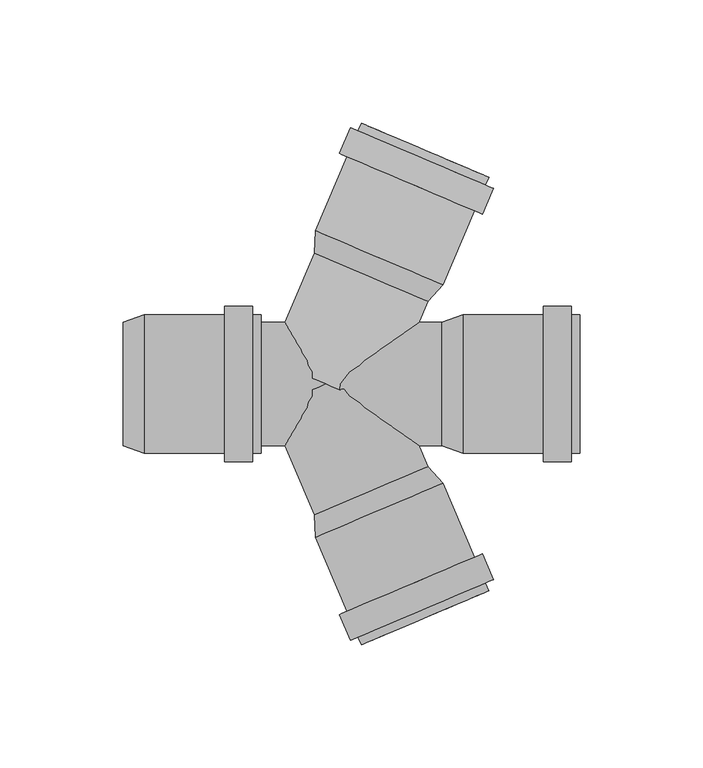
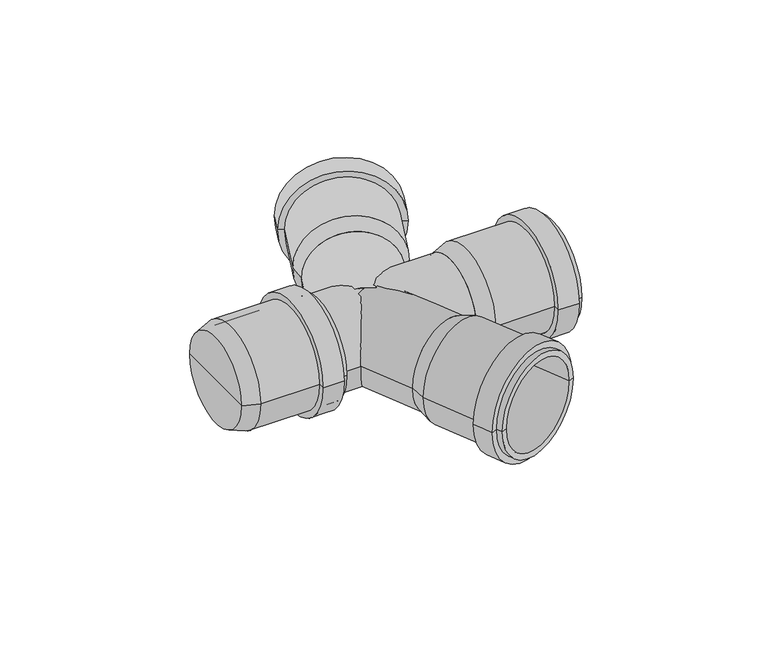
"""IFC4 building model written with IfcOpenShell, lengths in millimetres: pipe fitting geometry, pf_HTDA : pf_HTDA."""

from ifc_helpers import new_model, si_unit, point, frame, origin, origin_2d, place, context, project, spatial, polyline, circle_curve, trimmed, segment, composite_curve, outline, extrude, source, transform, mapped, element, save
from ifc_brep_helpers import plane_surface, cylinder_surface, revolved_surface, advanced_brep


def pipe_fitting_80fb3df5(model_context):
    return source(origin(), model_context, "Body", "SolidModel", [
        advanced_brep(
        [(41.4160575, 33.5875004, 0.0), (-4.6091852, 53.1240568, 0.0), (-4.1415356, 62.1596146, 0.0), (47.5908371, 40.2005251, 0.0), (18.4034362, 43.3557786, 0.0), (66.1505657, 83.9245057, 0.0), (14.418193, 105.8835951, 0.0), (17.271758, 104.6723286, 0.0), (63.2970007, 85.1357722, 0.0), (64.8220799, 80.7947892, 0.0), (13.0897071, 102.7538786, 0.0), (67.9517964, 79.4663033, 0.0), (9.9599906, 104.0823644, 0.0), (63.4974615, 68.972548, 0.0), (5.5056558, 93.5886091, 0.0), (60.367745, 70.3010338, 0.0), (8.6353723, 92.2601233, 0.0), (44.7372721, 41.4117916, 0.0), (-1.2879706, 60.9483481, 0.0), (21.7246507, 51.1800699, 0.0)],
        [
            (0, 1, circle_curve(frame((18.4034362, 43.3557786, 0.0), z_axis=(0.39073112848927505, 0.9205048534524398, 0.0), x_axis=(-0.9205048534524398, 0.39073112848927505, 0.0)), 25.0)),
            (1, 2),
            (2, 3, circle_curve(frame((21.7246507, 51.1800699, 0.0), z_axis=(-0.39073112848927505, -0.9205048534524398, 0.0), x_axis=(-0.9205048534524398, 0.39073112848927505, 0.0)), 28.1)),
            (3, 0),
            (1, 0, circle_curve(frame((18.4034362, 43.3557786, 0.0), z_axis=(0.39073112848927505, 0.9205048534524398, 0.0), x_axis=(-0.9205048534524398, 0.39073112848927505, 0.0)), 25.0)),
            (3, 2, circle_curve(frame((21.7246507, 51.1800699, 0.0), z_axis=(-0.39073112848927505, -0.9205048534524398, 0.0), x_axis=(-0.9205048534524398, 0.39073112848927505, 0.0)), 28.1)),
            (4, 1),
            (0, 4),
            (5, 6, circle_curve(frame((40.2843793, 94.9040504, 0.0), z_axis=(0.39073112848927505, 0.9205048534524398, 0.0), x_axis=(-0.9205048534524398, 0.39073112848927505, 0.0)), 28.1)),
            (6, 7),
            (7, 8, circle_curve(frame((40.2843793, 94.9040504, 0.0), z_axis=(-0.39073112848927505, -0.9205048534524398, 0.0), x_axis=(-0.9205048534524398, 0.39073112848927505, 0.0)), 25.0)),
            (8, 5),
            (6, 5, circle_curve(frame((40.2843793, 94.9040504, 0.0), z_axis=(0.39073112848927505, 0.9205048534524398, 0.0), x_axis=(-0.9205048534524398, 0.39073112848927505, 0.0)), 28.1)),
            (8, 7, circle_curve(frame((40.2843793, 94.9040504, 0.0), z_axis=(-0.39073112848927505, -0.9205048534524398, 0.0), x_axis=(-0.9205048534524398, 0.39073112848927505, 0.0)), 25.0)),
            (9, 10, circle_curve(frame((38.9558935, 91.7743339, 0.0), z_axis=(0.39073112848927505, 0.9205048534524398, 0.0), x_axis=(-0.9205048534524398, 0.39073112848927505, 0.0)), 28.1)),
            (10, 6),
            (5, 9),
            (10, 9, circle_curve(frame((38.9558935, 91.7743339, 0.0), z_axis=(0.39073112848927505, 0.9205048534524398, 0.0), x_axis=(-0.9205048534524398, 0.39073112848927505, 0.0)), 28.1)),
            (11, 12, circle_curve(frame((38.9558935, 91.7743339, 0.0), z_axis=(0.39073112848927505, 0.9205048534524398, 0.0), x_axis=(-0.9205048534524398, 0.39073112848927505, 0.0)), 31.5)),
            (12, 10),
            (9, 11),
            (12, 11, circle_curve(frame((38.9558935, 91.7743339, 0.0), z_axis=(0.39073112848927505, 0.9205048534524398, 0.0), x_axis=(-0.9205048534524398, 0.39073112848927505, 0.0)), 31.5)),
            (13, 14, circle_curve(frame((34.5015586, 81.2805786, 0.0), z_axis=(0.39073112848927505, 0.9205048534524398, 0.0), x_axis=(-0.9205048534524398, 0.39073112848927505, 0.0)), 31.5)),
            (14, 12),
            (11, 13),
            (14, 13, circle_curve(frame((34.5015586, 81.2805786, 0.0), z_axis=(0.39073112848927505, 0.9205048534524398, 0.0), x_axis=(-0.9205048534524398, 0.39073112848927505, 0.0)), 31.5)),
            (15, 16, circle_curve(frame((34.5015586, 81.2805786, 0.0), z_axis=(0.39073112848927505, 0.9205048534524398, 0.0), x_axis=(-0.9205048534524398, 0.39073112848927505, 0.0)), 28.1)),
            (16, 14),
            (13, 15),
            (16, 15, circle_curve(frame((34.5015586, 81.2805786, 0.0), z_axis=(0.39073112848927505, 0.9205048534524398, 0.0), x_axis=(-0.9205048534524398, 0.39073112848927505, 0.0)), 28.1)),
            (2, 16),
            (15, 3),
            (17, 18, circle_curve(frame((21.7246507, 51.1800699, 0.0), z_axis=(0.39073112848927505, 0.9205048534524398, 0.0), x_axis=(-0.9205048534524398, 0.39073112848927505, 0.0)), 25.0)),
            (18, 19),
            (19, 17),
            (18, 17, circle_curve(frame((21.7246507, 51.1800699, 0.0), z_axis=(0.39073112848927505, 0.9205048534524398, 0.0), x_axis=(-0.9205048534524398, 0.39073112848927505, 0.0)), 25.0)),
            (7, 18),
            (17, 8),
        ],
        [
            revolved_surface(polyline([(-4.1415356, 62.1596146, 0.0), (-4.6091852, 53.1240568, 0.0)]), (18.4034362, 43.3557786, 0.0), (-0.39073112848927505, -0.9205048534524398, 0.0)),
            plane_surface(frame((18.4034362, 43.3557786, 0.0), z_axis=(-0.39073112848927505, -0.9205048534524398, 0.0), x_axis=(-0.9205048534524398, 0.39073112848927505, 0.0))),
            plane_surface(frame((40.2843793, 94.9040504, 0.0), z_axis=(0.39073112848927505, 0.9205048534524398, 0.0), x_axis=(-0.9205048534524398, 0.39073112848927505, 0.0))),
            cylinder_surface(frame((18.4034362, 43.3557786, 0.0), z_axis=(-0.39073112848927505, -0.9205048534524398, 0.0), x_axis=(-0.9205048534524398, 0.39073112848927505, 0.0)), 28.1),
            plane_surface(frame((38.9558935, 91.7743339, 0.0), z_axis=(0.39073112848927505, 0.9205048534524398, 0.0), x_axis=(-0.9205048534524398, 0.39073112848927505, 0.0))),
            cylinder_surface(frame((18.4034362, 43.3557786, 0.0), z_axis=(-0.39073112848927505, -0.9205048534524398, 0.0), x_axis=(-0.9205048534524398, 0.39073112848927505, 0.0)), 31.5),
            plane_surface(frame((34.5015586, 81.2805786, 0.0), z_axis=(-0.39073112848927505, -0.9205048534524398, 0.0), x_axis=(-0.9205048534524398, 0.39073112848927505, 0.0))),
            plane_surface(frame((21.7246507, 51.1800699, 0.0), z_axis=(0.39073112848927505, 0.9205048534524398, 0.0), x_axis=(-0.9205048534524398, 0.39073112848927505, 0.0))),
            revolved_surface(polyline([(-1.2879705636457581, 60.94834802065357, 0.0), (17.271758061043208, 104.67232861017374, 0.0)]), (18.4034362, 43.3557786, 0.0), (-0.39073112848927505, -0.9205048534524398, 0.0)),
        ],
        [
            (0, [[1, 2, 3, 4]]),
            (0, [[5, -4, 6, -2]]),
            (1, [[7, -1, 8]]),
            (1, [[-8, -5, -7]]),
            (2, [[9, 10, 11, 12]]),
            (2, [[13, -12, 14, -10]]),
            (3, [[15, 16, -9, 17]]),
            (3, [[18, -17, -13, -16]]),
            (4, [[19, 20, -15, 21]]),
            (4, [[22, -21, -18, -20]]),
            (5, [[23, 24, -19, 25]]),
            (5, [[26, -25, -22, -24]]),
            (6, [[27, 28, -23, 29]]),
            (6, [[30, -29, -26, -28]]),
            (3, [[-3, 31, -27, 32]]),
            (3, [[-6, -32, -30, -31]]),
            (7, [[33, 34, 35]]),
            (7, [[36, -35, -34]]),
            (8, [[-11, 37, -33, 38]]),
            (8, [[-14, -38, -36, -37]]),
        ],
    ),
        advanced_brep(
        [(-4.6091852, -53.1240568, 0.0), (41.4160575, -33.5875004, 0.0), (47.5908371, -40.2005251, 0.0), (-4.1415356, -62.1596146, 0.0), (18.4034362, -43.3557786, 0.0), (14.418193, -105.8835951, 0.0), (66.1505657, -83.9245057, 0.0), (63.2970007, -85.1357722, 0.0), (17.271758, -104.6723286, 0.0), (13.0897071, -102.7538786, 0.0), (64.8220799, -80.7947892, 0.0), (9.9599906, -104.0823644, 0.0), (67.9517964, -79.4663033, 0.0), (5.5056558, -93.5886091, 0.0), (63.4974615, -68.972548, 0.0), (8.6353723, -92.2601233, 0.0), (60.367745, -70.3010338, 0.0), (-1.2879706, -60.9483481, 0.0), (44.7372721, -41.4117916, 0.0), (21.7246507, -51.1800699, 0.0)],
        [
            (0, 1, circle_curve(frame((18.4034362, -43.3557786, 0.0), z_axis=(0.3907311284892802, -0.9205048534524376, 0.0), x_axis=(0.9205048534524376, 0.3907311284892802, 0.0)), 25.0)),
            (1, 2),
            (2, 3, circle_curve(frame((21.7246507, -51.1800699, 0.0), z_axis=(-0.3907311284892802, 0.9205048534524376, 0.0), x_axis=(0.9205048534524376, 0.3907311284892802, 0.0)), 28.1)),
            (3, 0),
            (1, 0, circle_curve(frame((18.4034362, -43.3557786, 0.0), z_axis=(0.3907311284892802, -0.9205048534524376, 0.0), x_axis=(0.9205048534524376, 0.3907311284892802, 0.0)), 25.0)),
            (3, 2, circle_curve(frame((21.7246507, -51.1800699, 0.0), z_axis=(-0.3907311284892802, 0.9205048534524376, 0.0), x_axis=(0.9205048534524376, 0.3907311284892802, 0.0)), 28.1)),
            (4, 1),
            (0, 4),
            (5, 6, circle_curve(frame((40.2843793, -94.9040504, 0.0), z_axis=(0.3907311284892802, -0.9205048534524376, 0.0), x_axis=(0.9205048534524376, 0.3907311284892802, 0.0)), 28.1)),
            (6, 7),
            (7, 8, circle_curve(frame((40.2843793, -94.9040504, 0.0), z_axis=(-0.3907311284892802, 0.9205048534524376, 0.0), x_axis=(0.9205048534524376, 0.3907311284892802, 0.0)), 25.0)),
            (8, 5),
            (6, 5, circle_curve(frame((40.2843793, -94.9040504, 0.0), z_axis=(0.3907311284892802, -0.9205048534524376, 0.0), x_axis=(0.9205048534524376, 0.3907311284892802, 0.0)), 28.1)),
            (8, 7, circle_curve(frame((40.2843793, -94.9040504, 0.0), z_axis=(-0.3907311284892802, 0.9205048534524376, 0.0), x_axis=(0.9205048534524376, 0.3907311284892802, 0.0)), 25.0)),
            (9, 10, circle_curve(frame((38.9558935, -91.7743339, 0.0), z_axis=(0.3907311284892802, -0.9205048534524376, 0.0), x_axis=(0.9205048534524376, 0.3907311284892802, 0.0)), 28.1)),
            (10, 6),
            (5, 9),
            (10, 9, circle_curve(frame((38.9558935, -91.7743339, 0.0), z_axis=(0.3907311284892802, -0.9205048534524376, 0.0), x_axis=(0.9205048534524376, 0.3907311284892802, 0.0)), 28.1)),
            (11, 12, circle_curve(frame((38.9558935, -91.7743339, 0.0), z_axis=(0.3907311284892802, -0.9205048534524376, 0.0), x_axis=(0.9205048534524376, 0.3907311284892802, 0.0)), 31.5)),
            (12, 10),
            (9, 11),
            (12, 11, circle_curve(frame((38.9558935, -91.7743339, 0.0), z_axis=(0.3907311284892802, -0.9205048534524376, 0.0), x_axis=(0.9205048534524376, 0.3907311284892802, 0.0)), 31.5)),
            (13, 14, circle_curve(frame((34.5015586, -81.2805786, 0.0), z_axis=(0.3907311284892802, -0.9205048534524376, 0.0), x_axis=(0.9205048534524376, 0.3907311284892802, 0.0)), 31.5)),
            (14, 12),
            (11, 13),
            (14, 13, circle_curve(frame((34.5015586, -81.2805786, 0.0), z_axis=(0.3907311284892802, -0.9205048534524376, 0.0), x_axis=(0.9205048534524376, 0.3907311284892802, 0.0)), 31.5)),
            (15, 16, circle_curve(frame((34.5015586, -81.2805786, 0.0), z_axis=(0.3907311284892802, -0.9205048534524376, 0.0), x_axis=(0.9205048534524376, 0.3907311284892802, 0.0)), 28.1)),
            (16, 14),
            (13, 15),
            (16, 15, circle_curve(frame((34.5015586, -81.2805786, 0.0), z_axis=(0.3907311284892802, -0.9205048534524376, 0.0), x_axis=(0.9205048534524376, 0.3907311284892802, 0.0)), 28.1)),
            (2, 16),
            (15, 3),
            (17, 18, circle_curve(frame((21.7246507, -51.1800699, 0.0), z_axis=(0.3907311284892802, -0.9205048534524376, 0.0), x_axis=(0.9205048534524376, 0.3907311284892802, 0.0)), 25.0)),
            (18, 19),
            (19, 17),
            (18, 17, circle_curve(frame((21.7246507, -51.1800699, 0.0), z_axis=(0.3907311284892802, -0.9205048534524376, 0.0), x_axis=(0.9205048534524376, 0.3907311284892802, 0.0)), 25.0)),
            (7, 18),
            (17, 8),
        ],
        [
            revolved_surface(polyline([(47.5908371, -40.2005251, 0.0), (41.4160575, -33.5875004, 0.0)]), (18.4034362, -43.3557786, 0.0), (-0.3907311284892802, 0.9205048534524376, 0.0)),
            plane_surface(frame((18.4034362, -43.3557786, 0.0), z_axis=(-0.3907311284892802, 0.9205048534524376, 0.0), x_axis=(0.9205048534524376, 0.3907311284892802, 0.0))),
            plane_surface(frame((40.2843793, -94.9040504, 0.0), z_axis=(0.3907311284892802, -0.9205048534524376, 0.0), x_axis=(0.9205048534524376, 0.3907311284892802, 0.0))),
            cylinder_surface(frame((18.4034362, -43.3557786, 0.0), z_axis=(-0.3907311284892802, 0.9205048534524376, 0.0), x_axis=(0.9205048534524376, 0.3907311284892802, 0.0)), 28.1),
            plane_surface(frame((38.9558935, -91.7743339, 0.0), z_axis=(0.3907311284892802, -0.9205048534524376, 0.0), x_axis=(0.9205048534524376, 0.3907311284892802, 0.0))),
            cylinder_surface(frame((18.4034362, -43.3557786, 0.0), z_axis=(-0.3907311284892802, 0.9205048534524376, 0.0), x_axis=(0.9205048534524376, 0.3907311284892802, 0.0)), 31.5),
            plane_surface(frame((34.5015586, -81.2805786, 0.0), z_axis=(-0.3907311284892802, 0.9205048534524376, 0.0), x_axis=(0.9205048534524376, 0.3907311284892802, 0.0))),
            plane_surface(frame((21.7246507, -51.1800699, 0.0), z_axis=(0.3907311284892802, -0.9205048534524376, 0.0), x_axis=(0.9205048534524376, 0.3907311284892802, 0.0))),
            revolved_surface(polyline([(44.73727210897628, -41.4117915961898, 0.0), (63.29700073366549, -85.13577218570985, 0.0)]), (18.4034362, -43.3557786, 0.0), (-0.3907311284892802, 0.9205048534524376, 0.0)),
        ],
        [
            (0, [[1, 2, 3, 4]]),
            (0, [[5, -4, 6, -2]]),
            (1, [[7, -1, 8]]),
            (1, [[-8, -5, -7]]),
            (2, [[9, 10, 11, 12]]),
            (2, [[13, -12, 14, -10]]),
            (3, [[15, 16, -9, 17]]),
            (3, [[18, -17, -13, -16]]),
            (4, [[19, 20, -15, 21]]),
            (4, [[22, -21, -18, -20]]),
            (5, [[23, 24, -19, 25]]),
            (5, [[26, -25, -22, -24]]),
            (6, [[27, 28, -23, 29]]),
            (6, [[30, -29, -26, -28]]),
            (3, [[-3, 31, -27, 32]]),
            (3, [[-6, -32, -30, -31]]),
            (7, [[33, 34, 35]]),
            (7, [[36, -35, -34]]),
            (8, [[-11, 37, -33, 38]]),
            (8, [[-14, -38, -36, -37]]),
        ],
    ),
        advanced_brep(
        [(47.1, -25.0, 0.0), (47.1, 25.0, 0.0), (55.6, 28.1, 0.0), (55.6, -28.1, 0.0), (47.1, 0.0, 0.0), (103.1, -28.1, 0.0), (103.1, 28.1, 0.0), (103.1, 25.0, 0.0), (103.1, -25.0, 0.0), (99.7, -28.1, 0.0), (99.7, 28.1, 0.0), (99.7, -31.5, 0.0), (99.7, 31.5, 0.0), (88.3, -31.5, 0.0), (88.3, 31.5, 0.0), (88.3, -28.1, 0.0), (88.3, 28.1, 0.0), (55.6, -25.0, 0.0), (55.6, 25.0, 0.0), (55.6, 0.0, 0.0)],
        [
            (0, 1, circle_curve(frame((47.1, 0.0, 0.0), z_axis=(1.0, 0.0, 0.0), x_axis=(0.0, 1.0, 0.0)), 25.0)),
            (1, 2),
            (2, 3, circle_curve(frame((55.6, 0.0, 0.0), z_axis=(-1.0, 0.0, 0.0), x_axis=(0.0, 1.0, 0.0)), 28.1)),
            (3, 0),
            (1, 0, circle_curve(frame((47.1, 0.0, 0.0), z_axis=(1.0, 0.0, 0.0), x_axis=(0.0, 1.0, 0.0)), 25.0)),
            (3, 2, circle_curve(frame((55.6, 0.0, 0.0), z_axis=(-1.0, 0.0, 0.0), x_axis=(0.0, 1.0, 0.0)), 28.1)),
            (4, 1),
            (0, 4),
            (5, 6, circle_curve(frame((103.1, 0.0, 0.0), z_axis=(1.0, 0.0, 0.0), x_axis=(0.0, 1.0, 0.0)), 28.1)),
            (6, 7),
            (7, 8, circle_curve(frame((103.1, 0.0, 0.0), z_axis=(-1.0, 0.0, 0.0), x_axis=(0.0, 1.0, 0.0)), 25.0)),
            (8, 5),
            (6, 5, circle_curve(frame((103.1, 0.0, 0.0), z_axis=(1.0, 0.0, 0.0), x_axis=(0.0, 1.0, 0.0)), 28.1)),
            (8, 7, circle_curve(frame((103.1, 0.0, 0.0), z_axis=(-1.0, 0.0, 0.0), x_axis=(0.0, 1.0, 0.0)), 25.0)),
            (9, 10, circle_curve(frame((99.7, 0.0, 0.0), z_axis=(1.0, 0.0, 0.0), x_axis=(0.0, 1.0, 0.0)), 28.1)),
            (10, 6),
            (5, 9),
            (10, 9, circle_curve(frame((99.7, 0.0, 0.0), z_axis=(1.0, 0.0, 0.0), x_axis=(0.0, 1.0, 0.0)), 28.1)),
            (11, 12, circle_curve(frame((99.7, 0.0, 0.0), z_axis=(1.0, 0.0, 0.0), x_axis=(0.0, 1.0, 0.0)), 31.5)),
            (12, 10),
            (9, 11),
            (12, 11, circle_curve(frame((99.7, 0.0, 0.0), z_axis=(1.0, 0.0, 0.0), x_axis=(0.0, 1.0, 0.0)), 31.5)),
            (13, 14, circle_curve(frame((88.3, 0.0, 0.0), z_axis=(1.0, 0.0, 0.0), x_axis=(0.0, 1.0, 0.0)), 31.5)),
            (14, 12),
            (11, 13),
            (14, 13, circle_curve(frame((88.3, 0.0, 0.0), z_axis=(1.0, 0.0, 0.0), x_axis=(0.0, 1.0, 0.0)), 31.5)),
            (15, 16, circle_curve(frame((88.3, 0.0, 0.0), z_axis=(1.0, 0.0, 0.0), x_axis=(0.0, 1.0, 0.0)), 28.1)),
            (16, 14),
            (13, 15),
            (16, 15, circle_curve(frame((88.3, 0.0, 0.0), z_axis=(1.0, 0.0, 0.0), x_axis=(0.0, 1.0, 0.0)), 28.1)),
            (2, 16),
            (15, 3),
            (17, 18, circle_curve(frame((55.6, 0.0, 0.0), z_axis=(1.0, 0.0, 0.0), x_axis=(0.0, 1.0, 0.0)), 25.0)),
            (18, 19),
            (19, 17),
            (18, 17, circle_curve(frame((55.6, 0.0, 0.0), z_axis=(1.0, 0.0, 0.0), x_axis=(0.0, 1.0, 0.0)), 25.0)),
            (7, 18),
            (17, 8),
        ],
        [
            revolved_surface(polyline([(55.6, 28.1, 0.0), (47.1, 25.0, 0.0)]), (47.1, 0.0, 0.0), (-1.0, 0.0, 0.0)),
            plane_surface(frame((47.1, 0.0, 0.0), z_axis=(-1.0, 0.0, 0.0), x_axis=(0.0, 1.0, 0.0))),
            plane_surface(frame((103.1, 0.0, 0.0), z_axis=(1.0, 0.0, 0.0), x_axis=(0.0, 1.0, 0.0))),
            cylinder_surface(frame((47.1, 0.0, 0.0), z_axis=(-1.0, 0.0, 0.0), x_axis=(0.0, 1.0, 0.0)), 28.1),
            plane_surface(frame((99.7, 0.0, 0.0), z_axis=(1.0, 0.0, 0.0), x_axis=(0.0, 1.0, 0.0))),
            cylinder_surface(frame((47.1, 0.0, 0.0), z_axis=(-1.0, 0.0, 0.0), x_axis=(0.0, 1.0, 0.0)), 31.5),
            plane_surface(frame((88.3, 0.0, 0.0), z_axis=(-1.0, 0.0, 0.0), x_axis=(0.0, 1.0, 0.0))),
            plane_surface(frame((55.6, 0.0, 0.0), z_axis=(1.0, 0.0, 0.0), x_axis=(0.0, 1.0, 0.0))),
            revolved_surface(polyline([(55.6, 25.0, 0.0), (103.1, 25.0, 0.0)]), (47.1, 0.0, 0.0), (-1.0, 0.0, 0.0)),
        ],
        [
            (0, [[1, 2, 3, 4]]),
            (0, [[5, -4, 6, -2]]),
            (1, [[7, -1, 8]]),
            (1, [[-8, -5, -7]]),
            (2, [[9, 10, 11, 12]]),
            (2, [[13, -12, 14, -10]]),
            (3, [[15, 16, -9, 17]]),
            (3, [[18, -17, -13, -16]]),
            (4, [[19, 20, -15, 21]]),
            (4, [[22, -21, -18, -20]]),
            (5, [[23, 24, -19, 25]]),
            (5, [[26, -25, -22, -24]]),
            (6, [[27, 28, -23, 29]]),
            (6, [[30, -29, -26, -28]]),
            (3, [[-3, 31, -27, 32]]),
            (3, [[-6, -32, -30, -31]]),
            (7, [[33, 34, 35]]),
            (7, [[36, -35, -34]]),
            (8, [[-11, 37, -33, 38]]),
            (8, [[-14, -38, -36, -37]]),
        ],
    ),
        advanced_brep(
        [(-82.4, -25.0, 0.0), (-82.4, 25.0, 0.0), (-73.9, 28.1, 0.0), (-73.9, -28.1, 0.0), (-82.4, 0.0, 0.0), (-26.4, -28.1, 0.0), (-26.4, 28.1, 0.0), (-26.4, 25.0, 0.0), (-26.4, -25.0, 0.0), (-29.8, -28.1, 0.0), (-29.8, 28.1, 0.0), (-29.8, -31.5, 0.0), (-29.8, 31.5, 0.0), (-41.2, -31.5, 0.0), (-41.2, 31.5, 0.0), (-41.2, -28.1, 0.0), (-41.2, 28.1, 0.0), (-73.9, -25.0, 0.0), (-73.9, 25.0, 0.0), (-73.9, 0.0, 0.0)],
        [
            (0, 1, circle_curve(frame((-82.4, 0.0, 0.0), z_axis=(1.0, 0.0, 0.0), x_axis=(0.0, 1.0, 0.0)), 25.0)),
            (1, 2),
            (2, 3, circle_curve(frame((-73.9, 0.0, 0.0), z_axis=(-1.0, 0.0, 0.0), x_axis=(0.0, 1.0, 0.0)), 28.1)),
            (3, 0),
            (1, 0, circle_curve(frame((-82.4, 0.0, 0.0), z_axis=(1.0, 0.0, 0.0), x_axis=(0.0, 1.0, 0.0)), 25.0)),
            (3, 2, circle_curve(frame((-73.9, 0.0, 0.0), z_axis=(-1.0, 0.0, 0.0), x_axis=(0.0, 1.0, 0.0)), 28.1)),
            (4, 1),
            (0, 4),
            (5, 6, circle_curve(frame((-26.4, 0.0, 0.0), z_axis=(1.0, 0.0, 0.0), x_axis=(0.0, 1.0, 0.0)), 28.1)),
            (6, 7),
            (7, 8, circle_curve(frame((-26.4, 0.0, 0.0), z_axis=(-1.0, 0.0, 0.0), x_axis=(0.0, 1.0, 0.0)), 25.0)),
            (8, 5),
            (6, 5, circle_curve(frame((-26.4, 0.0, 0.0), z_axis=(1.0, 0.0, 0.0), x_axis=(0.0, 1.0, 0.0)), 28.1)),
            (8, 7, circle_curve(frame((-26.4, 0.0, 0.0), z_axis=(-1.0, 0.0, 0.0), x_axis=(0.0, 1.0, 0.0)), 25.0)),
            (9, 10, circle_curve(frame((-29.8, 0.0, 0.0), z_axis=(1.0, 0.0, 0.0), x_axis=(0.0, 1.0, 0.0)), 28.1)),
            (10, 6),
            (5, 9),
            (10, 9, circle_curve(frame((-29.8, 0.0, 0.0), z_axis=(1.0, 0.0, 0.0), x_axis=(0.0, 1.0, 0.0)), 28.1)),
            (11, 12, circle_curve(frame((-29.8, 0.0, 0.0), z_axis=(1.0, 0.0, 0.0), x_axis=(0.0, 1.0, 0.0)), 31.5)),
            (12, 10),
            (9, 11),
            (12, 11, circle_curve(frame((-29.8, 0.0, 0.0), z_axis=(1.0, 0.0, 0.0), x_axis=(0.0, 1.0, 0.0)), 31.5)),
            (13, 14, circle_curve(frame((-41.2, 0.0, 0.0), z_axis=(1.0, 0.0, 0.0), x_axis=(0.0, 1.0, 0.0)), 31.5)),
            (14, 12),
            (11, 13),
            (14, 13, circle_curve(frame((-41.2, 0.0, 0.0), z_axis=(1.0, 0.0, 0.0), x_axis=(0.0, 1.0, 0.0)), 31.5)),
            (15, 16, circle_curve(frame((-41.2, 0.0, 0.0), z_axis=(1.0, 0.0, 0.0), x_axis=(0.0, 1.0, 0.0)), 28.1)),
            (16, 14),
            (13, 15),
            (16, 15, circle_curve(frame((-41.2, 0.0, 0.0), z_axis=(1.0, 0.0, 0.0), x_axis=(0.0, 1.0, 0.0)), 28.1)),
            (2, 16),
            (15, 3),
            (17, 18, circle_curve(frame((-73.9, 0.0, 0.0), z_axis=(1.0, 0.0, 0.0), x_axis=(0.0, 1.0, 0.0)), 25.0)),
            (18, 19),
            (19, 17),
            (18, 17, circle_curve(frame((-73.9, 0.0, 0.0), z_axis=(1.0, 0.0, 0.0), x_axis=(0.0, 1.0, 0.0)), 25.0)),
            (7, 18),
            (17, 8),
        ],
        [
            revolved_surface(polyline([(-73.9, 28.1, 0.0), (-82.4, 25.0, 0.0)]), (-82.4, 0.0, 0.0), (-1.0, 0.0, 0.0)),
            plane_surface(frame((-82.4, 0.0, 0.0), z_axis=(-1.0, 0.0, 0.0), x_axis=(0.0, 1.0, 0.0))),
            plane_surface(frame((-26.4, 0.0, 0.0), z_axis=(1.0, 0.0, 0.0), x_axis=(0.0, 1.0, 0.0))),
            cylinder_surface(frame((-82.4, 0.0, 0.0), z_axis=(-1.0, 0.0, 0.0), x_axis=(0.0, 1.0, 0.0)), 28.1),
            plane_surface(frame((-29.8, 0.0, 0.0), z_axis=(1.0, 0.0, 0.0), x_axis=(0.0, 1.0, 0.0))),
            cylinder_surface(frame((-82.4, 0.0, 0.0), z_axis=(-1.0, 0.0, 0.0), x_axis=(0.0, 1.0, 0.0)), 31.5),
            plane_surface(frame((-41.2, 0.0, 0.0), z_axis=(-1.0, 0.0, 0.0), x_axis=(0.0, 1.0, 0.0))),
            plane_surface(frame((-73.9, 0.0, 0.0), z_axis=(1.0, 0.0, 0.0), x_axis=(0.0, 1.0, 0.0))),
            revolved_surface(polyline([(-73.9, 25.0, 0.0), (-26.4, 25.0, 0.0)]), (-82.4, 0.0, 0.0), (-1.0, 0.0, 0.0)),
        ],
        [
            (0, [[1, 2, 3, 4]]),
            (0, [[5, -4, 6, -2]]),
            (1, [[7, -1, 8]]),
            (1, [[-8, -5, -7]]),
            (2, [[9, 10, 11, 12]]),
            (2, [[13, -12, 14, -10]]),
            (3, [[15, 16, -9, 17]]),
            (3, [[18, -17, -13, -16]]),
            (4, [[19, 20, -15, 21]]),
            (4, [[22, -21, -18, -20]]),
            (5, [[23, 24, -19, 25]]),
            (5, [[26, -25, -22, -24]]),
            (6, [[27, 28, -23, 29]]),
            (6, [[30, -29, -26, -28]]),
            (3, [[-3, 31, -27, 32]]),
            (3, [[-6, -32, -30, -31]]),
            (7, [[33, 34, 35]]),
            (7, [[36, -35, -34]]),
            (8, [[-11, 37, -33, 38]]),
            (8, [[-14, -38, -36, -37]]),
        ],
    ),
        extrude(outline(composite_curve([segment(trimmed(circle_curve(origin_2d(), 25.0), [point((0.0, 25.0))], [point((0.0, -25.0))], False, "CARTESIAN"), True, "CONTINUOUS"), segment(trimmed(circle_curve(origin_2d(), 25.0), [point((0.0, -25.0))], [point((0.0, 25.0))], False, "CARTESIAN"), True, "CONTINUOUS")], self_intersect=False)), frame((0.0, 0.0, 0.0), z_axis=(0.390731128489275, 0.9205048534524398, 0.0), x_axis=(0.0, 0.0, 1.0)), (0.0, 0.0, 1.0), 47.1),
        extrude(outline(composite_curve([segment(trimmed(circle_curve(origin_2d(), 25.0), [point((0.0, -25.0000001))], [point((0.0, 25.0))], False, "CARTESIAN"), True, "CONTINUOUS"), segment(trimmed(circle_curve(origin_2d(), 25.0), [point((0.0, 25.0))], [point((0.0, -25.0000001))], False, "CARTESIAN"), True, "CONTINUOUS")], self_intersect=False)), frame((18.4034362, -43.3557786, 0.0), z_axis=(-0.3907311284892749, 0.9205048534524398, 0.0), x_axis=(0.0, 0.0, 1.0)), (0.0, 0.0, 1.0), 47.1),
        extrude(outline(composite_curve([segment(trimmed(circle_curve(origin_2d(), 25.0), [point((-25.0, 0.0))], [point((25.0, 0.0))], False, "CARTESIAN"), True, "CONTINUOUS"), segment(trimmed(circle_curve(origin_2d(), 25.0), [point((25.0, 0.0))], [point((-25.0, 0.0))], False, "CARTESIAN"), True, "CONTINUOUS")], self_intersect=False)), frame((-73.9, 0.0, 0.0), z_axis=(1.0, 0.0, 0.0), x_axis=(0.0, 1.0, 0.0)), (0.0, 0.0, 1.0), 121.0),
    ])


if __name__ == "__main__":
    model = new_model("IFC4")
    model_context = context("Model", 3, world=origin())
    ifc_project = project(units=[si_unit("LENGTHUNIT", "METRE", prefix="MILLI")], contexts=[model_context])
    site = spatial("IfcSite", under=ifc_project)
    building = spatial("IfcBuilding", under=site)
    placement = place(None, origin())
    pipe_fitting_shape = pipe_fitting_80fb3df5(model_context)
    element("IfcPipeFitting", 1, ObjectType="pf_HTDA : pf_HTDA", at=placement, inside=building, context=model_context, shape_type="MappedRepresentation", body=[
        mapped(pipe_fitting_shape, transform((0.0, 0.0, 0.0), x_axis=(1.0, 0.0, 0.0), y_axis=(0.0, 1.0, 0.0), z_axis=(0.0, 0.0, 1.0))),
    ])
    save(model, "model.ifc")
